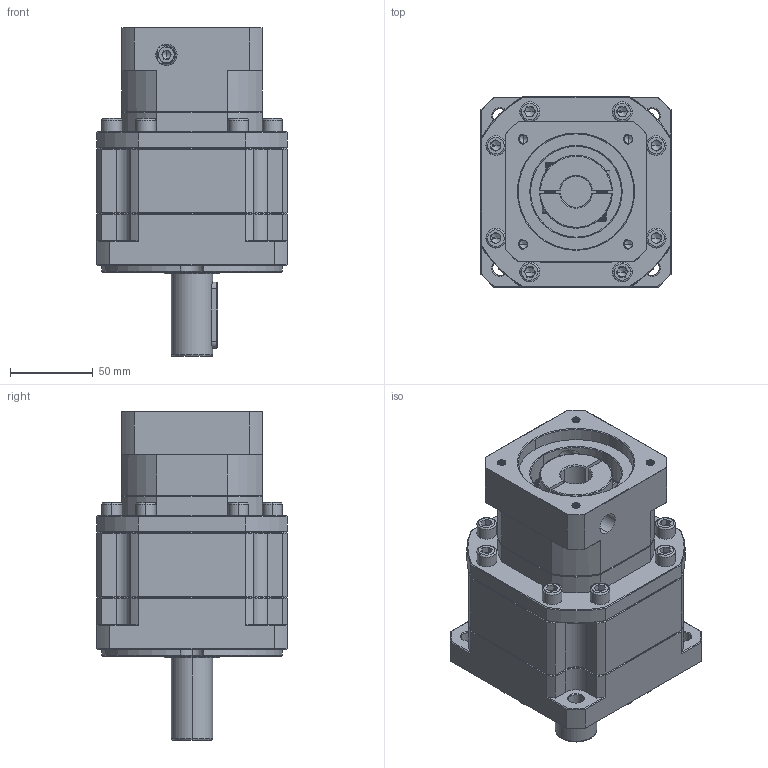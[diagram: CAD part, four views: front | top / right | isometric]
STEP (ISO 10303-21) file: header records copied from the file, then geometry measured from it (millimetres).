
FILE_DESCRIPTION (( 'STEP AP214' ), '1' );
FILE_NAME ('ZB115A-D25-L2-P2-19-70-90-M6.step', '2023-08-26T09:59:52', ( '' ), ( '' ), 'SwSTEP 2.0', 'SolidWorks 2016', '' );
FILE_SCHEMA (( 'AUTOMOTIVE_DESIGN' ));
Length unit declared in the file: millimetre
Products named in the file (1): ZB115A-D25-L2-P2-19-70-90-M6
Bounding box: 115 x 115 x 199 mm (x, y, z)
Volume: 1360772 mm3; surface area: 131742.6 mm2
Topology: 5 solids, 5 shells, 2381 faces, 6280 edges, 3998 vertices
Faces by surface type: plane 1180, bspline 442, cylinder 419, cone 340
Entity records: 127427 total; most frequent: CARTESIAN_POINT 46102, ORIENTED_EDGE 12484, DIRECTION 9775, EDGE_CURVE 6242, LINE 4021, VECTOR 4021, VERTEX_POINT 3998, AXIS2_PLACEMENT_3D 2877
